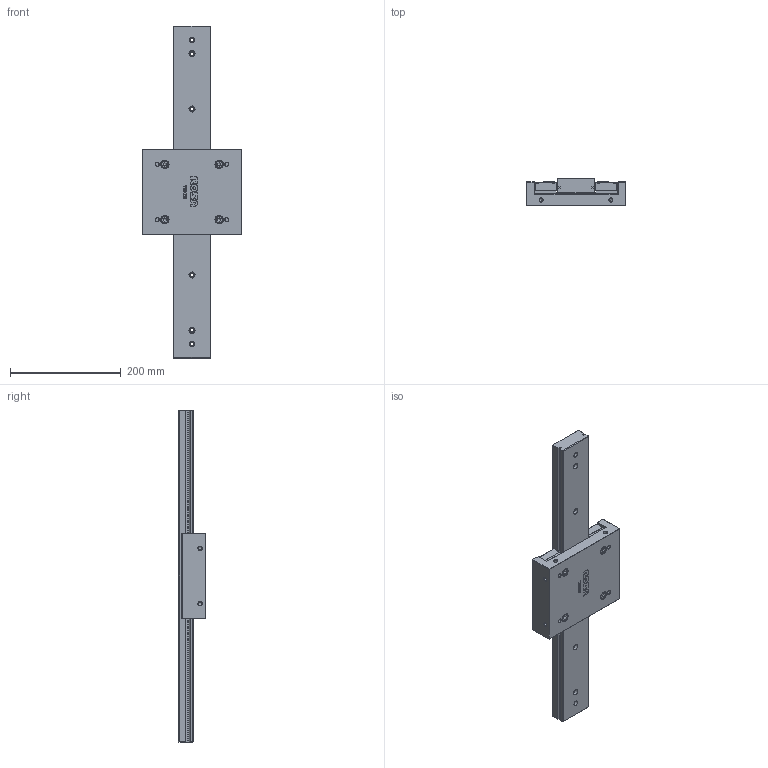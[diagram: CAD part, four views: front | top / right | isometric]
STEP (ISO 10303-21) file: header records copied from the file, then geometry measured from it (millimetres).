
FILE_DESCRIPTION(/* description */ ('TAVOLA TRKD09 L= 600 mm'),/* implementation_level */ '2;1');
FILE_NAME(/* name */ 'TRKD090600-00.stp',/* time_stamp */ '2024-01-30T11:33:10+01:00',/* author */ ('Rosa sistemi'),/* organization */ (''),/* preprocessor_version */ 'ST-DEVELOPER v20',/* originating_system */ 'Autodesk Inventor 2024',/* authorisation */ '');
FILE_SCHEMA (('AUTOMOTIVE_DESIGN { 1 0 10303 214 3 1 1 }'));
Length unit declared in the file: millimetre
Products named in the file (2): TRKD090600-00; TRKD090600-00_1
Assembly tree (1 placements, depth 2):
  TRKD090600-00
    TRKD090600-00_1
Bounding box: 180 x 49 x 600 mm (x, y, z)
Volume: 1943422.4 mm3; surface area: 265258.7 mm2
Topology: 22 solids, 22 shells, 704 faces, 1792 edges, 1137 vertices
Faces by surface type: plane 428, cone 100, cylinder 91, bspline 31, sphere 30, torus 24
Full cylindrical faces by diameter (mm): 2 x2, 4.134 x4, 4.823 x1, 6 x8, 6.647 x22, 7 x2, 8 x1, 9 x3, 10.5 x10, 13 x4, 13.263 x1, 14 x4
Entity records: 22331 total; most frequent: CARTESIAN_POINT 4893, ORIENTED_EDGE 3440, DIRECTION 3373, EDGE_CURVE 1720, AXIS2_PLACEMENT_3D 1163, VERTEX_POINT 1137, LINE 1047, VECTOR 1047
